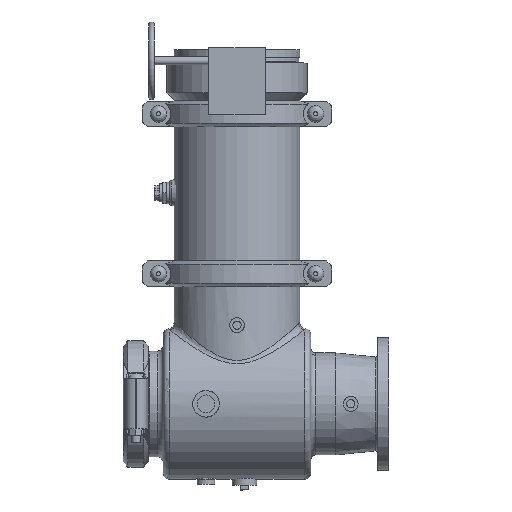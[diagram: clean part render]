
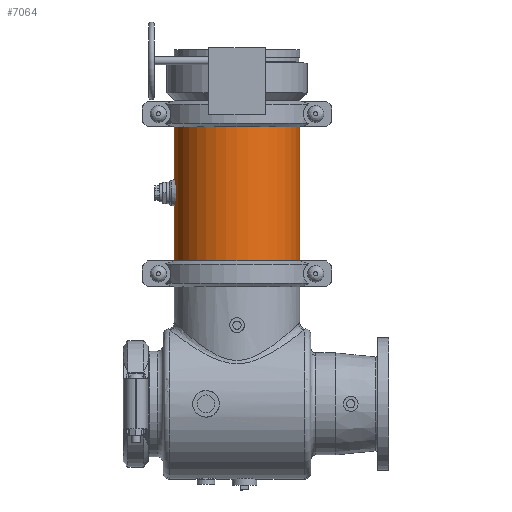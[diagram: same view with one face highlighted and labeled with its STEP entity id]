
A CAD part, top view. The second image highlights one B-rep face of the part: STEP entity #7064.
In plain terms, the highlighted cylindrical face has radius 161.925 mm (diameter 323.85 mm), a full revolution.
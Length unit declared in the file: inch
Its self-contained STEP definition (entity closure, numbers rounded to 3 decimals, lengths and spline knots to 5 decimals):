
#695=FACE_OUTER_BOUND('',#1144,.T.);
#1144=EDGE_LOOP('',(#5334,#5335,#5336,#5337,#5338,#5339));
#1613=CIRCLE('',#7866,6.375);
#1614=CIRCLE('',#7867,6.375);
#1615=CIRCLE('',#7869,6.375);
#1616=CIRCLE('',#7870,6.375);
#2032=LINE('',#12676,#2494);
#2494=VECTOR('',#9327,6.375);
#3075=VERTEX_POINT('',#12667);
#3076=VERTEX_POINT('',#12668);
#3077=VERTEX_POINT('',#12672);
#3078=VERTEX_POINT('',#12673);
#3888=EDGE_CURVE('',#3075,#3076,#1613,.T.);
#3889=EDGE_CURVE('',#3076,#3075,#1614,.T.);
#3890=EDGE_CURVE('',#3077,#3078,#1615,.T.);
#3891=EDGE_CURVE('',#3078,#3077,#1616,.T.);
#3892=EDGE_CURVE('',#3078,#3076,#2032,.T.);
#5334=ORIENTED_EDGE('',*,*,#3890,.F.);
#5335=ORIENTED_EDGE('',*,*,#3891,.F.);
#5336=ORIENTED_EDGE('',*,*,#3892,.T.);
#5337=ORIENTED_EDGE('',*,*,#3889,.T.);
#5338=ORIENTED_EDGE('',*,*,#3888,.T.);
#5339=ORIENTED_EDGE('',*,*,#3892,.F.);
#6421=CYLINDRICAL_SURFACE('',#7868,6.375);
#7064=ADVANCED_FACE('',(#695),#6421,.T.);
#7866=AXIS2_PLACEMENT_3D('',#12669,#9317,#9318);
#7867=AXIS2_PLACEMENT_3D('',#12670,#9319,#9320);
#7868=AXIS2_PLACEMENT_3D('',#12671,#9321,#9322);
#7869=AXIS2_PLACEMENT_3D('',#12674,#9323,#9324);
#7870=AXIS2_PLACEMENT_3D('',#12675,#9325,#9326);
#9317=DIRECTION('center_axis',(0.,-1.,0.));
#9318=DIRECTION('ref_axis',(1.,0.,0.));
#9319=DIRECTION('center_axis',(0.,-1.,0.));
#9320=DIRECTION('ref_axis',(1.,0.,0.));
#9321=DIRECTION('center_axis',(0.,-1.,0.));
#9322=DIRECTION('ref_axis',(1.,0.,0.));
#9323=DIRECTION('center_axis',(0.,-1.,0.));
#9324=DIRECTION('ref_axis',(1.,0.,0.));
#9325=DIRECTION('center_axis',(0.,-1.,0.));
#9326=DIRECTION('ref_axis',(1.,0.,0.));
#9327=DIRECTION('',(0.,1.,0.));
#12667=CARTESIAN_POINT('',(6.375,6.85,0.));
#12668=CARTESIAN_POINT('',(-6.375,6.85,0.));
#12669=CARTESIAN_POINT('Origin',(0.,6.85,0.));
#12670=CARTESIAN_POINT('Origin',(0.,6.85,0.));
#12671=CARTESIAN_POINT('Origin',(0.,0.,
0.));
#12672=CARTESIAN_POINT('',(6.375,-6.85,0.));
#12673=CARTESIAN_POINT('',(-6.375,-6.85,0.));
#12674=CARTESIAN_POINT('Origin',(0.,-6.85,0.));
#12675=CARTESIAN_POINT('Origin',(0.,-6.85,0.));
#12676=CARTESIAN_POINT('',(-6.375,0.,0.));
